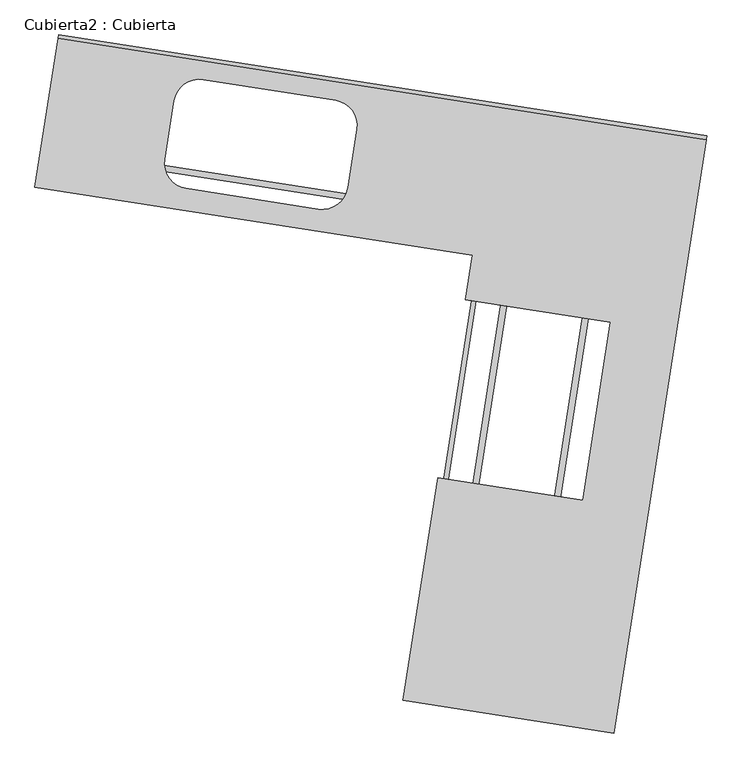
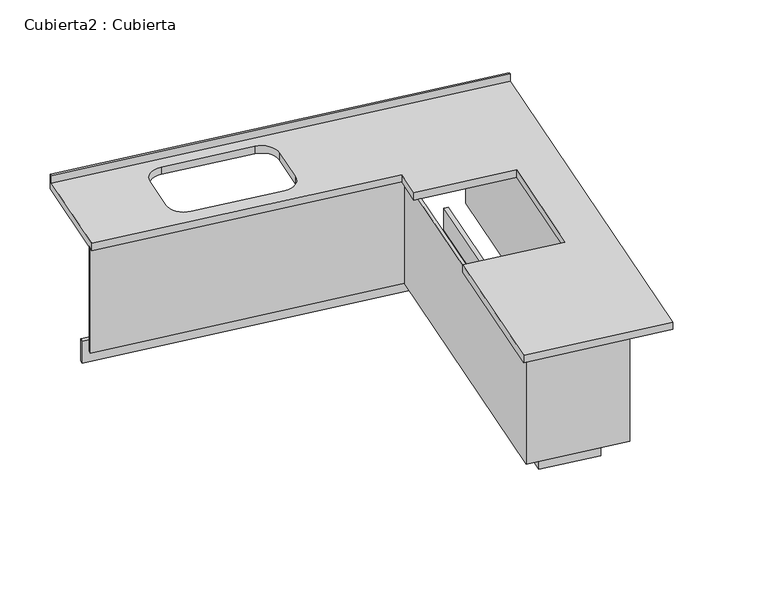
"""IFC4 building model written with IfcOpenShell, lengths in millimetres: furniture geometry, Cubierta2 : Cubierta."""

from ifc_helpers import new_model, si_unit, frame, origin, origin_with_axes, place, context, project, spatial, polyline, circle_curve, outline, extrude, source, transform, mapped, element, save
from ifc_brep_helpers import plane_surface, revolved_surface, advanced_brep


def cubierta2_cubierta_5e2531d2(model_context):
    return source(origin(), model_context, "Body", "SolidModel", [
        extrude(outline(polyline([(-30166.3985598, -72366.0541424), (-30536.9245463, -72308.3004382), (-30244.3057771, -70430.9687632), (-32240.205788, -70119.8688056), (-32236.355541, -70095.1670729), (-30215.7537974, -70410.1172775), (-30508.3725666, -72287.4489525), (-30187.2500455, -72337.5021627), (-29823.7867321, -70005.658606), (-29799.0849994, -70009.508853), (-30166.3985598, -72366.0541424)])), origin_with_axes(), (0.0, 0.0, 1.0), 150.0),
        extrude(outline(polyline([(-30679.6844447, -72412.5578668), (-30387.0656755, -70535.2261918), (-32259.4570229, -70243.3774691), (-32256.3768253, -70223.6160829), (-30364.2240917, -70518.5450032), (-30656.842861, -72395.8766783), (-30078.8223198, -72485.972457), (-29695.337722, -70025.6798903), (-29675.5763359, -70028.7600879), (-30062.1411312, -72508.8140408), (-30679.6844447, -72412.5578668)])), frame((0.0, 0.0, 150.0), z_axis=(0.0, 0.0, 1.0), x_axis=(1.0, 0.0, 0.0)), (0.0, 0.0, 1.0), 720.0),
        advanced_brep(
        [(-32263.3072699, -70268.0792018, 920.0), (-30415.6176552, -70556.0776775, 920.0), (-30444.8795322, -70743.8108459, 920.0), (-29832.2765614, -70839.2969711, 920.0), (-29949.3240696, -71590.2296451, 920.0), (-30561.9270405, -71494.7435199, 920.0), (-30708.2364244, -72433.4093524, 920.0), (-29818.9740513, -72572.0182432, 920.0), (-29428.5590089, -70067.2625577, 920.0), (-32165.5109966, -69640.6551913, 920.0), (-31713.2748637, -70151.3975332, 920.0), (-31674.7723939, -69904.3802062, 920.0), (-31552.5699208, -69815.1358474, 920.0), (-30994.3107619, -69902.1514292, 920.0), (-30905.0664031, -70024.3539022, 920.0), (-30943.5688729, -70271.3712292, 920.0), (-31065.7713459, -70360.615588, 920.0), (-31624.0305048, -70273.6000062, 920.0), (-29426.2488607, -70052.441518, 870.0), (-29818.9740513, -72572.0182432, 870.0), (-30708.2364244, -72433.4093524, 870.0), (-30561.9270405, -71494.7435199, 870.0), (-29949.3240696, -71590.2296451, 870.0), (-29832.2765614, -70839.2969711, 870.0), (-30444.8795322, -70743.8108459, 870.0), (-30415.6176552, -70556.0776775, 870.0), (-32263.3072699, -70268.0792018, 870.0), (-32163.2008484, -69625.8341516, 870.0), (-31713.2748637, -70151.3975332, 870.0), (-31624.0305048, -70273.6000062, 870.0), (-31065.7713459, -70360.615588, 870.0), (-30943.5688729, -70271.3712292, 870.0), (-30905.0664031, -70024.3539022, 870.0), (-30994.3107619, -69902.1514292, 870.0), (-31552.5699208, -69815.1358474, 870.0), (-31674.7723939, -69904.3802062, 870.0), (-29426.2488607, -70052.4415181, 970.0), (-29428.5590089, -70067.2625577, 970.0), (-32163.2008484, -69625.8341517, 970.0), (-32165.5109966, -69640.6551913, 970.0)],
        [
            (0, 1),
            (1, 2),
            (2, 3),
            (3, 4),
            (4, 5),
            (5, 6),
            (6, 7),
            (7, 8),
            (8, 9),
            (9, 0),
            (10, 11),
            (11, 12, circle_curve(frame((-31569.0489779, -69920.8592633, 920.0), z_axis=(0.0, 0.0, -1.0), x_axis=(0.9880693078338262, -0.15400987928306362, 0.0)), 107.0)),
            (12, 13),
            (13, 14, circle_curve(frame((-31010.789819, -70007.8748451, 920.0), z_axis=(0.0, 0.0, -1.0), x_axis=(0.9880693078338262, -0.15400987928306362, 0.0)), 107.0)),
            (14, 15),
            (15, 16, circle_curve(frame((-31049.2922888, -70254.8921721, 920.0), z_axis=(0.0, 0.0, -1.0), x_axis=(0.9880693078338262, -0.15400987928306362, 0.0)), 107.0)),
            (16, 17),
            (17, 10, circle_curve(frame((-31607.5514477, -70167.8765903, 920.0), z_axis=(0.0, 0.0, -1.0), x_axis=(0.9880693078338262, -0.15400987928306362, 0.0)), 107.0)),
            (18, 19),
            (19, 20),
            (20, 21),
            (21, 22),
            (22, 23),
            (23, 24),
            (24, 25),
            (25, 26),
            (26, 27),
            (27, 18),
            (28, 29, circle_curve(frame((-31607.5514477, -70167.8765903, 870.0), z_axis=(0.0, 0.0, 1.0), x_axis=(0.9880693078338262, -0.15400987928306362, 0.0)), 107.0)),
            (29, 30),
            (30, 31, circle_curve(frame((-31049.2922888, -70254.8921721, 870.0), z_axis=(0.0, 0.0, 1.0), x_axis=(0.9880693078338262, -0.15400987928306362, 0.0)), 107.0)),
            (31, 32),
            (32, 33, circle_curve(frame((-31010.789819, -70007.8748451, 870.0), z_axis=(0.0, 0.0, 1.0), x_axis=(0.9880693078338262, -0.15400987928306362, 0.0)), 107.0)),
            (33, 34),
            (34, 35, circle_curve(frame((-31569.0489779, -69920.8592633, 870.0), z_axis=(0.0, 0.0, 1.0), x_axis=(0.9880693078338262, -0.15400987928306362, 0.0)), 107.0)),
            (35, 28),
            (36, 37),
            (37, 8),
            (7, 19),
            (18, 36),
            (36, 38),
            (38, 39),
            (39, 37),
            (39, 9),
            (27, 38),
            (26, 0),
            (25, 1),
            (10, 28),
            (35, 11),
            (34, 12),
            (33, 13),
            (32, 14),
            (31, 15),
            (30, 16),
            (29, 17),
            (5, 21),
            (20, 6),
            (24, 2),
            (23, 3),
            (22, 4),
        ],
        [
            plane_surface(frame((-31684.1423176, -69700.5047703, 920.0), z_axis=(0.0, 0.0, 1.0), x_axis=(-0.9880693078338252, 0.15400987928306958, 0.0))),
            plane_surface(frame((-31684.1423176, -69700.5047703, 870.0), z_axis=(0.0, 0.0, -1.0), x_axis=(0.9880693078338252, -0.15400987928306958, 0.0))),
            plane_surface(frame((-29426.2488607, -70052.4415181, 20.0), z_axis=(0.9880693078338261, -0.1540098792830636, 0.0), x_axis=(0.0, 0.0, 1.0))),
            plane_surface(frame((-29426.2488607, -70052.4415181, 970.0), z_axis=(0.0, 0.0, 1.0), x_axis=(-0.9880693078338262, 0.15400987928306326, 0.0))),
            plane_surface(frame((-29428.5590089, -70067.2625577, 970.0), z_axis=(-0.15400987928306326, -0.9880693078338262, 0.0), x_axis=(-0.9880693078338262, 0.15400987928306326, 0.0))),
            plane_surface(frame((-29426.2488607, -70052.4415181, 920.0), z_axis=(0.15400987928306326, 0.9880693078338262, 0.0), x_axis=(-0.9880693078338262, 0.15400987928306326, 0.0))),
            plane_surface(frame((-32163.2008484, -69625.8341517, 20.0), z_axis=(-0.9880693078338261, 0.1540098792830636, 0.0), x_axis=(0.0, 0.0, 1.0))),
            plane_surface(frame((-32263.3072699, -70268.0792018, 920.0), z_axis=(-0.15400987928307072, -0.988069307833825, 0.0), x_axis=(0.0, 0.0, -1.0))),
            plane_surface(frame((-31713.2748637, -70151.3975332, 920.0), z_axis=(0.9880693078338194, -0.1540098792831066, 0.0), x_axis=(0.0, 0.0, -1.0))),
            revolved_surface(polyline([(-31463.32556196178, -69937.33832038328, 870.0000000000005), (-31463.32556196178, -69937.33832038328, 920.0000000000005)]), (-31569.0489779, -69920.8592633, 20.0), (0.0, 0.0, -1.0000000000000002)),
            plane_surface(frame((-31552.5699208, -69815.1358474, 920.0), z_axis=(-0.15400987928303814, -0.9880693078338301, 0.0), x_axis=(0.0, 0.0, -1.0))),
            revolved_surface(polyline([(-30905.06640306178, -70024.35390218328, 870.0000000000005), (-30905.06640306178, -70024.35390218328, 920.0000000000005)]), (-31010.789819, -70007.8748451, 20.0), (0.0, 0.0, -1.0000000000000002)),
            plane_surface(frame((-30905.0664031, -70024.3539022, 920.0), z_axis=(-0.9880693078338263, 0.15400987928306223, 0.0), x_axis=(0.0, 0.0, -1.0))),
            revolved_surface(polyline([(-30943.56887286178, -70271.37122918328, 870.0000000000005), (-30943.56887286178, -70271.37122918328, 920.0000000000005)]), (-31049.2922888, -70254.8921721, 20.0), (0.0, 0.0, -1.0000000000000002)),
            plane_surface(frame((-31065.7713459, -70360.615588, 920.0), z_axis=(0.1540098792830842, 0.9880693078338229, 0.0), x_axis=(0.0, 0.0, -1.0))),
            revolved_surface(polyline([(-31501.82803176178, -70184.35564738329, 870.0000000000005), (-31501.82803176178, -70184.35564738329, 920.0000000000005)]), (-31607.5514477, -70167.8765903, 20.0), (0.0, 0.0, -1.0000000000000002)),
            plane_surface(frame((-30561.9270405, -71494.7435199, 920.0), z_axis=(-0.9880693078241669, 0.15400987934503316, 0.0), x_axis=(0.0, 0.0, -1.0))),
            plane_surface(frame((-30708.2364244, -72433.4093524, 920.0), z_axis=(-0.15400987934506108, -0.9880693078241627, 0.0), x_axis=(0.0, 0.0, -1.0))),
            plane_surface(frame((-30415.6176552, -70556.0776775, 920.0), z_axis=(-0.9880693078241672, 0.15400987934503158, 0.0), x_axis=(0.0, 0.0, -1.0))),
            plane_surface(frame((-30444.8795322, -70743.8108459, 920.0), z_axis=(-0.15400987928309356, -0.9880693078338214, 0.0), x_axis=(0.0, 0.0, -1.0))),
            plane_surface(frame((-29832.2765614, -70839.2969711, 920.0), z_axis=(-0.9880693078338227, 0.15400987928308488, 0.0), x_axis=(0.0, 0.0, -1.0))),
            plane_surface(frame((-29949.3240696, -71590.2296451, 920.0), z_axis=(0.15400987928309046, 0.988069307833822, 0.0), x_axis=(0.0, 0.0, -1.0))),
        ],
        [
            (0, [[1, 2, 3, 4, 5, 6, 7, 8, 9, 10], [11, 12, 13, 14, 15, 16, 17, 18]]),
            (1, [[19, 20, 21, 22, 23, 24, 25, 26, 27, 28], [29, 30, 31, 32, 33, 34, 35, 36]]),
            (2, [[37, 38, -8, 39, -19, 40]]),
            (3, [[-37, 41, 42, 43]]),
            (4, [[-38, -43, 44, -9]]),
            (5, [[-40, -28, 45, -41]]),
            (6, [[-42, -45, -27, 46, -10, -44]]),
            (7, [[-1, -46, -26, 47]]),
            (8, [[-11, 48, -36, 49]]),
            (9, [[-12, -49, -35, 50]]),
            (10, [[-13, -50, -34, 51]]),
            (11, [[-14, -51, -33, 52]]),
            (12, [[-15, -52, -32, 53]]),
            (13, [[-16, -53, -31, 54]]),
            (14, [[-17, -54, -30, 55]]),
            (15, [[-18, -55, -29, -48]]),
            (16, [[-6, 56, -21, 57]]),
            (17, [[-7, -57, -20, -39]]),
            (18, [[-2, -47, -25, 58]]),
            (19, [[-3, -58, -24, 59]]),
            (20, [[-4, -59, -23, 60]]),
            (21, [[-5, -60, -22, -56]]),
        ],
    ),
    ])


if __name__ == "__main__":
    model = new_model("IFC4")
    model_context = context("Model", 3, world=origin())
    ifc_project = project(units=[si_unit("LENGTHUNIT", "METRE", prefix="MILLI")], contexts=[model_context])
    site = spatial("IfcSite", under=ifc_project)
    building = spatial("IfcBuilding", under=site)
    placement = place(None, origin())
    cubierta2_cubierta_shape = cubierta2_cubierta_5e2531d2(model_context)
    element("IfcFurniture", 1, ObjectType="Cubierta2 : Cubierta", at=placement, inside=building, context=model_context, shape_type="MappedRepresentation", body=[
        mapped(cubierta2_cubierta_shape, transform((0.0, 0.0, 0.0), x_axis=(1.0, 0.0, 0.0), y_axis=(0.0, 1.0, 0.0), z_axis=(0.0, 0.0, 1.0))),
    ])
    save(model, "model.ifc")
